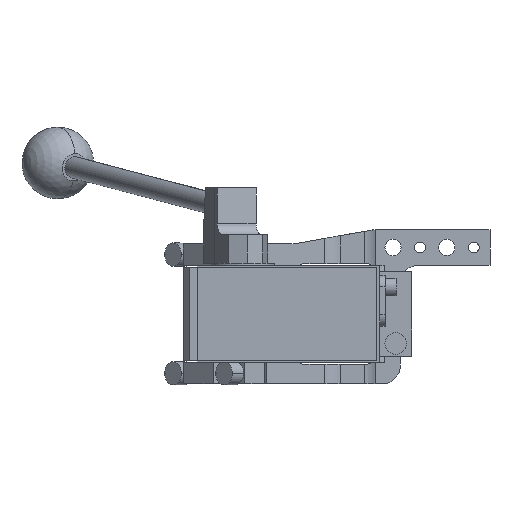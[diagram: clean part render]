
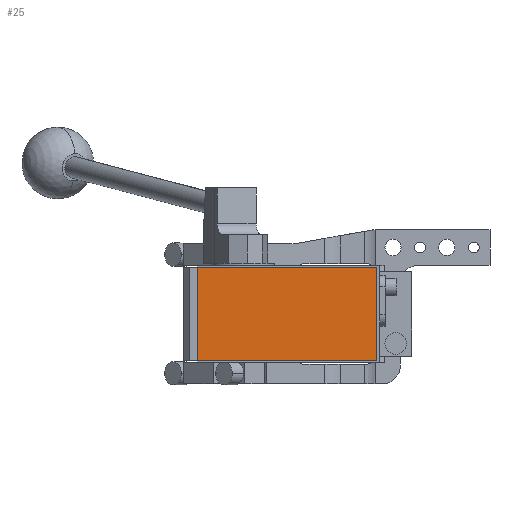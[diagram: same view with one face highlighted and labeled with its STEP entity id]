
A CAD part, front view. The second image highlights one B-rep face of the part: STEP entity #25.
In plain terms, the highlighted planar face has unit normal (0, -1, 0).
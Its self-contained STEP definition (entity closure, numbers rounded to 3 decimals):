
#25 = ADVANCED_FACE ( 'NONE', ( #11373 ), #12602, .T. ) ;
#805 = LINE ( 'NONE', #8983, #14021 ) ;
#837 = EDGE_LOOP ( 'NONE', ( #13045, #5364, #7544, #13545 ) ) ;
#940 = DIRECTION ( 'NONE',  ( 0., 0., -1. ) ) ;
#1142 = LINE ( 'NONE', #9391, #8210 ) ;
#1781 = CARTESIAN_POINT ( 'NONE',  ( 81., -286.5, -26. ) ) ;
#3614 = CARTESIAN_POINT ( 'NONE',  ( -19., -286.5, 26. ) ) ;
#3645 = EDGE_CURVE ( 'NONE', #8593, #4423, #8120, .T. ) ;
#4345 = CARTESIAN_POINT ( 'NONE',  ( -19., -286.5, -26. ) ) ;
#4423 = VERTEX_POINT ( 'NONE', #5360 ) ;
#4794 = EDGE_CURVE ( 'NONE', #9250, #9015, #805, .T. ) ;
#5344 = DIRECTION ( 'NONE',  ( 1., 0., 0. ) ) ;
#5360 = CARTESIAN_POINT ( 'NONE',  ( -19., -286.5, 26. ) ) ;
#5364 = ORIENTED_EDGE ( 'NONE', *, *, #4794, .T. ) ;
#5772 = CARTESIAN_POINT ( 'NONE',  ( 0., -286.5, 0. ) ) ;
#6406 = VECTOR ( 'NONE', #6489, 1000. ) ;
#6489 = DIRECTION ( 'NONE',  ( 0., 0., 1. ) ) ;
#7119 = DIRECTION ( 'NONE',  ( 0., 0., -1. ) ) ;
#7242 = AXIS2_PLACEMENT_3D ( 'NONE', #5772, #9036, #940 ) ;
#7544 = ORIENTED_EDGE ( 'NONE', *, *, #14800, .T. ) ;
#8120 = LINE ( 'NONE', #3614, #13247 ) ;
#8210 = VECTOR ( 'NONE', #7119, 1000. ) ;
#8593 = VERTEX_POINT ( 'NONE', #13686 ) ;
#8772 = LINE ( 'NONE', #13682, #6406 ) ;
#8983 = CARTESIAN_POINT ( 'NONE',  ( -19., -286.5, -26. ) ) ;
#9015 = VERTEX_POINT ( 'NONE', #1781 ) ;
#9036 = DIRECTION ( 'NONE',  ( 0., -1., 0. ) ) ;
#9250 = VERTEX_POINT ( 'NONE', #4345 ) ;
#9391 = CARTESIAN_POINT ( 'NONE',  ( -19., -286.5, 26. ) ) ;
#9990 = EDGE_CURVE ( 'NONE', #4423, #9250, #1142, .T. ) ;
#11373 = FACE_OUTER_BOUND ( 'NONE', #837, .T. ) ;
#12602 = PLANE ( 'NONE',  #7242 ) ;
#12821 = DIRECTION ( 'NONE',  ( -1., 0., 0. ) ) ;
#13045 = ORIENTED_EDGE ( 'NONE', *, *, #9990, .T. ) ;
#13247 = VECTOR ( 'NONE', #12821, 1000. ) ;
#13545 = ORIENTED_EDGE ( 'NONE', *, *, #3645, .T. ) ;
#13682 = CARTESIAN_POINT ( 'NONE',  ( 81., -286.5, 26. ) ) ;
#13686 = CARTESIAN_POINT ( 'NONE',  ( 81., -286.5, 26. ) ) ;
#14021 = VECTOR ( 'NONE', #5344, 1000. ) ;
#14800 = EDGE_CURVE ( 'NONE', #9015, #8593, #8772, .T. ) ;
